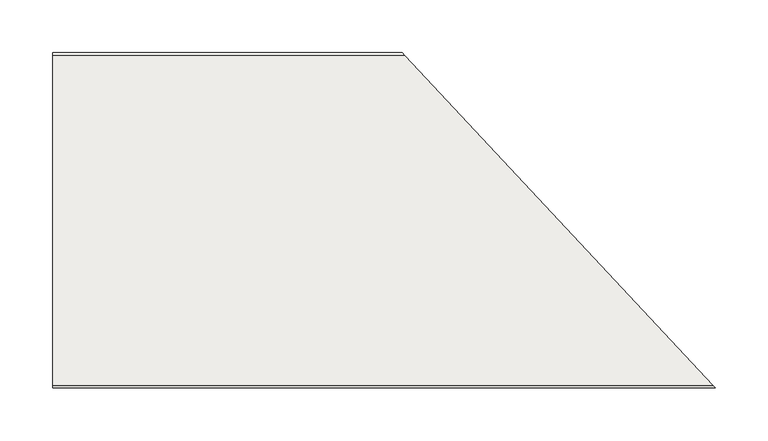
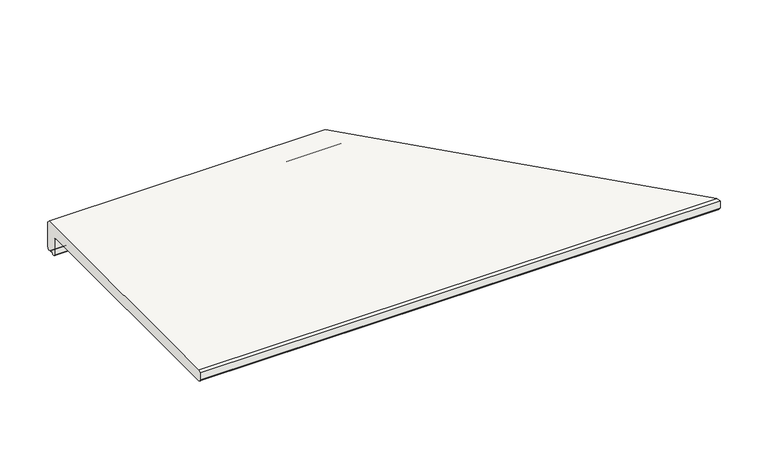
"""IFC4 building model written with IfcOpenShell, lengths in millimetres: slab geometry, ROSA GRES_L62 (corte-profundidad) : Pieza L62_Mistery_Grey_Anti-Slip."""

from ifc_helpers import new_model, si_unit, frame, origin, place, context, project, spatial, polyline, circle_curve, ellipse_curve, source, transform, mapped, element, save
from ifc_brep_helpers import plane_surface, cylinder_surface, revolved_surface, advanced_brep


def slab_c32b6409(model_context):
    return source(origin(), model_context, "Body", "AdvancedBrep", [
        advanced_brep(
        [(0.0, -11.8865989, -24.0), (0.0, -13.8100559, -22.076543), (0.0, -13.8100559, -2.5683173), (0.0, -16.4230659, 0.0446927), (0.0, -314.5178771, 0.0446927), (0.0, -317.0, 2.5268156), (0.0, -317.0, 11.5), (0.0, -314.5, 14.0), (0.0, -2.5, 14.0), (0.0, 0.0, 11.5), (0.0, 0.0, -20.5), (0.0, -2.5, -23.0), (0.0, -5.422949, -23.0), (0.0, -9.4124925, -23.0), (0.0, -9.4124925, -24.0), (338.7037514, -9.4124925, -24.0), (341.0108929, -11.8865989, -24.0), (334.9834419, -5.422949, -23.0), (338.7037514, -9.4124925, -23.0), (332.2577479, -2.5, -23.0), (329.9264602, 0.0, -20.5), (329.9264602, 0.0, 11.5), (623.2024547, -314.5, 14.0), (332.2577479, -2.5, 14.0), (625.5337425, -317.0, 2.5268156), (625.5337425, -317.0, 11.5), (623.2191254, -314.5178771, 0.0446927), (345.2412169, -16.4230659, 0.0446927), (342.8045456, -13.8100559, -2.5683173), (342.8045456, -13.8100559, -22.076543)],
        [
            (0, 1, circle_curve(frame((0.0, -11.8865989, -22.076543), z_axis=(-1.0, 0.0, 0.0), x_axis=(0.0, -1.0, 0.0)), 1.923457)),
            (1, 2),
            (2, 3, circle_curve(frame((0.0, -16.4230659, -2.5683173), z_axis=(1.0, 0.0, 0.0), x_axis=(0.0, -1.0, 0.0)), 2.6130101)),
            (3, 4),
            (4, 5, circle_curve(frame((0.0, -314.5178771, 2.5268156), z_axis=(-1.0, 0.0, 0.0), x_axis=(0.0, -1.0, 0.0)), 2.4821229)),
            (5, 6),
            (6, 7),
            (7, 8),
            (8, 9),
            (9, 10),
            (10, 11, circle_curve(frame((0.0, -2.5, -20.5), z_axis=(-1.0, 0.0, 0.0), x_axis=(0.0, -1.0, 0.0)), 2.5)),
            (11, 12),
            (12, 13, circle_curve(frame((0.0, -7.4177208, -23.0), z_axis=(1.0, 0.0, 0.0), x_axis=(0.0, -1.0, 0.0)), 1.9947717)),
            (13, 14),
            (14, 0),
            (14, 15),
            (15, 16),
            (16, 0),
            (12, 17),
            (17, 18, ellipse_curve(frame((336.8435967, -7.4177208, -23.0), z_axis=(0.7313537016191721, 0.6819983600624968, 0.0), x_axis=(0.6819983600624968, -0.7313537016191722, 0.0)), 2.7275062, 1.9947717)),
            (18, 13),
            (11, 19),
            (19, 17),
            (10, 20),
            (20, 19, ellipse_curve(frame((332.2577479, -2.5, -20.5), z_axis=(-0.7313537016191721, -0.6819983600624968, 0.0), x_axis=(-0.6819983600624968, 0.7313537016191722, 0.0)), 3.4183187, 2.5)),
            (9, 21),
            (21, 20),
            (7, 22),
            (22, 23),
            (23, 8),
            (5, 24),
            (24, 25),
            (25, 6),
            (4, 26),
            (26, 24, ellipse_curve(frame((623.2191254, -314.5178771, 2.5268156), z_axis=(-0.7313537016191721, -0.6819983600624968, 0.0), x_axis=(-0.6819983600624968, 0.7313537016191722, 0.0)), 3.3938748, 2.4821229)),
            (3, 27),
            (27, 26),
            (2, 28),
            (28, 27, ellipse_curve(frame((345.2412169, -16.4230659, -2.5683173), z_axis=(0.7313537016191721, 0.6819983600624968, 0.0), x_axis=(0.6819983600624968, -0.7313537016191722, 0.0)), 3.5728404, 2.6130101)),
            (1, 29),
            (29, 28),
            (16, 29, ellipse_curve(frame((341.0108929, -11.8865989, -22.076543), z_axis=(-0.7313537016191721, -0.6819983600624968, 0.0), x_axis=(-0.6819983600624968, 0.7313537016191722, 0.0)), 2.6299955, 1.923457)),
            (23, 21),
            (25, 22),
            (18, 15),
        ],
        [
            plane_surface(frame((0.0, 0.0, 0.0), z_axis=(-1.0, 0.0, 0.0), x_axis=(0.0, 0.0, 1.0))),
            plane_surface(frame((0.0, -11.8865989, -24.0), z_axis=(0.0, 0.0, -1.0), x_axis=(1.0, 0.0, 0.0))),
            revolved_surface(polyline([(338.7037514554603, -9.412492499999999, -23.0), (0.0, -9.412492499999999, -23.0)]), (0.0, -7.4177208, -23.0), (1.0, 0.0, 0.0)),
            plane_surface(frame((0.0, -5.422949, -23.0), z_axis=(0.0, 0.0, -1.0), x_axis=(1.0, 0.0, 0.0))),
            cylinder_surface(frame((0.0, -2.5, -20.5), z_axis=(-1.0, 0.0, 0.0), x_axis=(0.0, -1.0, 0.0)), 2.5),
            plane_surface(frame((0.0, 0.0, -20.5), z_axis=(0.0, 1.0, 0.0), x_axis=(1.0, 0.0, 0.0))),
            plane_surface(frame((0.0, -2.5, 14.0), z_axis=(0.0, 0.0, 1.0), x_axis=(1.0, 0.0, 0.0))),
            plane_surface(frame((0.0, -317.0, 11.5), z_axis=(0.0, -1.0, 0.0), x_axis=(1.0, 0.0, 0.0))),
            cylinder_surface(frame((0.0, -314.5178771, 2.5268156), z_axis=(-1.0, 0.0, 0.0), x_axis=(0.0, -1.0, 0.0)), 2.4821229),
            plane_surface(frame((0.0, -314.5178771, 0.0446927), z_axis=(0.0, 0.0, -1.0), x_axis=(1.0, 0.0, 0.0))),
            revolved_surface(polyline([(347.677888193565, -19.036076, -2.5683173), (0.0, -19.036076, -2.5683173)]), (0.0, -16.4230659, -2.5683173), (1.0, 0.0, 0.0)),
            plane_surface(frame((0.0, -13.8100559, -2.5683173), z_axis=(0.0, -1.0, 0.0), x_axis=(1.0, 0.0, 0.0))),
            cylinder_surface(frame((0.0, -11.8865989, -22.076543), z_axis=(-1.0, 0.0, 0.0), x_axis=(0.0, -1.0, 0.0)), 1.923457),
            plane_surface(frame((0.0, 0.0, 11.5), z_axis=(0.0, 0.7071067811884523, 0.7071067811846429), x_axis=(1.0, 0.0, 0.0))),
            plane_surface(frame((0.0, -314.5, 14.0), z_axis=(0.0, -0.7071067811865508, 0.7071067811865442), x_axis=(1.0, 0.0, 0.0))),
            plane_surface(frame((0.0, -9.4124925, -24.0), z_axis=(0.0, 1.0, 0.0), x_axis=(1.0, 0.0, 0.0))),
            plane_surface(frame((626.0, -317.5, 86.9871832), z_axis=(0.7313537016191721, 0.6819983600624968, 0.0), x_axis=(0.0, 0.0, -1.0))),
        ],
        [
            (0, [[1, 2, 3, 4, 5, 6, 7, 8, 9, 10, 11, 12, 13, 14, 15]]),
            (1, [[16, 17, 18, -15]]),
            (2, [[19, 20, 21, -13]]),
            (3, [[22, 23, -19, -12]]),
            (4, [[24, 25, -22, -11]]),
            (5, [[26, 27, -24, -10]]),
            (6, [[28, 29, 30, -8]]),
            (7, [[31, 32, 33, -6]]),
            (8, [[34, 35, -31, -5]]),
            (9, [[36, 37, -34, -4]]),
            (10, [[38, 39, -36, -3]]),
            (11, [[40, 41, -38, -2]]),
            (12, [[-18, 42, -40, -1]]),
            (13, [[-30, 43, -26, -9]]),
            (14, [[-33, 44, -28, -7]]),
            (15, [[-21, 45, -16, -14]]),
            (16, [[-45, -20, -23, -25, -27, -43, -29, -44, -32, -35, -37, -39, -41, -42, -17]]),
        ],
    ),
    ])


if __name__ == "__main__":
    model = new_model("IFC4")
    model_context = context("Model", 3, world=origin())
    ifc_project = project(units=[si_unit("LENGTHUNIT", "METRE", prefix="MILLI")], contexts=[model_context])
    site = spatial("IfcSite", under=ifc_project)
    building = spatial("IfcBuilding", under=site)
    placement = place(None, origin())
    slab_shape = slab_c32b6409(model_context)
    element("IfcSlab", 1, ObjectType="ROSA GRES_L62 (corte-profundidad) : Pieza L62_Mistery_Grey_Anti-Slip", at=placement, inside=building, context=model_context, shape_type="MappedRepresentation", body=[
        mapped(slab_shape, transform((0.0, 0.0, 0.0), x_axis=(1.0, 0.0, 0.0), y_axis=(0.0, 1.0, 0.0), z_axis=(0.0, 0.0, 1.0))),
    ])
    save(model, "model.ifc")
